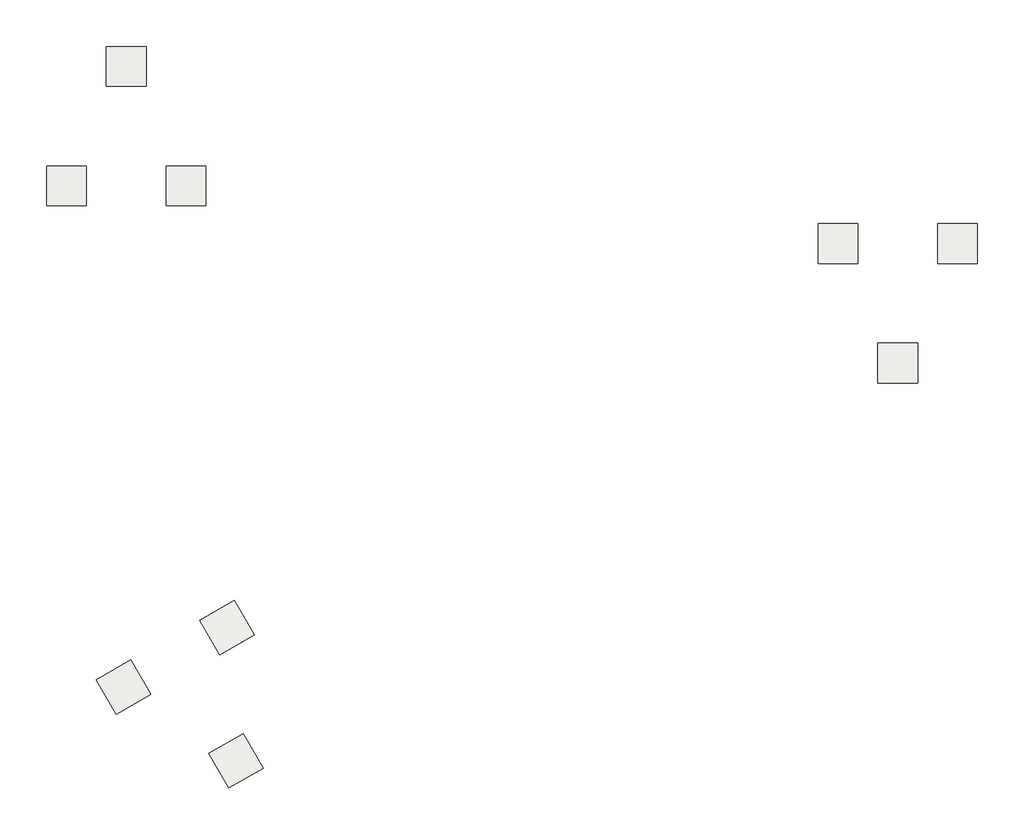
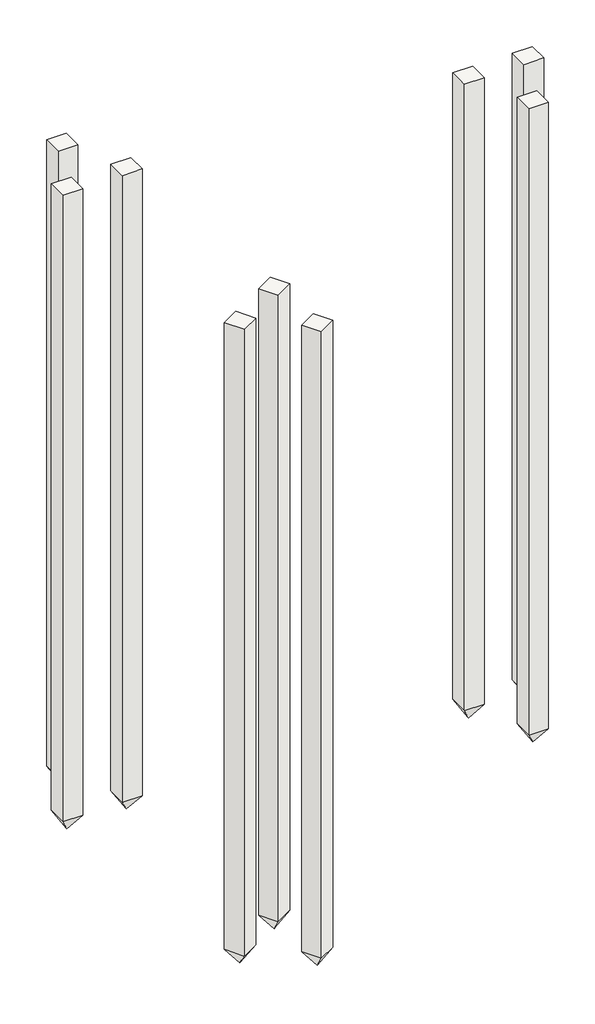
# One storey: 9 slabs.
"""IFC4 building model written with IfcOpenShell, lengths in millimetres."""

from ifc_helpers import new_model, si_unit, origin, place, context, project, spatial, faceted_brep, element, save

model = new_model("IFC4")

# Units and contexts
model_context = context("Model", 3, world=origin())
ifc_project = project(units=[si_unit("LENGTHUNIT", "METRE", prefix="MILLI")], contexts=[model_context])

# Site, building, storey
site = spatial("IfcSite", under=ifc_project)
building = spatial("IfcBuilding", under=site)
storey = spatial("IfcBuildingStorey", under=building, Name="+0.150 (Верх свай 3)", Elevation=150.0)

# Slabs
placement = place(None, origin())
element("IfcSlab", 1, ObjectType="Бетонная свая прямоугольного сечения : C100.30-9", at=placement, inside=storey, context=model_context, shape_type="Brep", body=[
    faceted_brep([(9836.4938099, 32265.0328931, 150.0), (9576.6861888, 32115.0328931, 150.0), (9726.6861888, 31855.225272, 150.0), (9986.4938099, 32005.225272, 150.0), (9836.4938099, 32265.0328931, 100.0), (9836.4938099, 32265.0328931, 0.0), (9836.4938099, 32265.0328931, -9850.0), (9576.6861888, 32115.0328931, -9850.0), (9576.6861888, 32115.0328931, 0.0), (9576.6861888, 32115.0328931, 100.0), (9726.6861888, 31855.225272, -9850.0), (9726.6861888, 31855.225272, 0.0), (9726.6861888, 31855.225272, 100.0), (9986.4938099, 32005.225272, -9850.0), (9986.4938099, 32005.225272, 0.0), (9986.4938099, 32005.225272, 100.0), (9781.7658255, 32060.6696651, -10100.0), (9782.1658255, 32059.9768447, -10100.0), (9781.4730052, 32059.5768447, -10100.0), (9781.0730052, 32060.2696651, -10100.0)], [[[0, 1, 2, 3]], [[1, 0, 4, 5, 6, 7, 8, 9]], [[2, 1, 9, 8, 7, 10, 11, 12]], [[3, 2, 12, 11, 10, 13, 14, 15]], [[0, 3, 15, 14, 13, 6, 5, 4]], [[16, 17, 18, 19]], [[17, 16, 6, 13]], [[18, 17, 13, 10]], [[19, 18, 10, 7]], [[16, 19, 7, 6]]]),
])
element("IfcSlab", 2, ObjectType="Бетонная свая прямоугольного сечения : C100.30-9", at=placement, inside=storey, context=model_context, shape_type="Brep", body=[
    faceted_brep([(10615.8786497, 32715.0987455, 150.0), (10356.0710286, 32565.0987455, 150.0), (10506.0710286, 32305.2911243, 150.0), (10765.8786497, 32455.2911243, 150.0), (10615.8786497, 32715.0987455, 100.0), (10615.8786497, 32715.0987455, 0.0), (10615.8786497, 32715.0987455, -9850.0), (10356.0710286, 32565.0987455, -9850.0), (10356.0710286, 32565.0987455, 0.0), (10356.0710286, 32565.0987455, 100.0), (10506.0710286, 32305.2911243, -9850.0), (10506.0710286, 32305.2911243, 0.0), (10506.0710286, 32305.2911243, 100.0), (10765.8786497, 32455.2911243, -9850.0), (10765.8786497, 32455.2911243, 0.0), (10765.8786497, 32455.2911243, 100.0), (10561.1506653, 32510.7355174, -10100.0), (10561.5506653, 32510.0426971, -10100.0), (10560.857845, 32509.6426971, -10100.0), (10560.457845, 32510.3355174, -10100.0)], [[[0, 1, 2, 3]], [[1, 0, 4, 5, 6, 7, 8, 9]], [[2, 1, 9, 8, 7, 10, 11, 12]], [[3, 2, 12, 11, 10, 13, 14, 15]], [[0, 3, 15, 14, 13, 6, 5, 4]], [[16, 17, 18, 19]], [[17, 16, 6, 13]], [[18, 17, 13, 10]], [[19, 18, 10, 7]], [[16, 19, 7, 6]]]),
])
element("IfcSlab", 3, ObjectType="Бетонная свая прямоугольного сечения : C100.30-9", at=placement, inside=storey, context=model_context, shape_type="Brep", body=[
    faceted_brep([(10683.9271701, 31710.5752059, 150.0), (10424.119549, 31560.5752059, 150.0), (10574.119549, 31300.7675847, 150.0), (10833.9271701, 31450.7675847, 150.0), (10683.9271701, 31710.5752059, 100.0), (10683.9271701, 31710.5752059, 0.0), (10683.9271701, 31710.5752059, -9850.0), (10424.119549, 31560.5752059, -9850.0), (10424.119549, 31560.5752059, 0.0), (10424.119549, 31560.5752059, 100.0), (10574.119549, 31300.7675847, -9850.0), (10574.119549, 31300.7675847, 0.0), (10574.119549, 31300.7675847, 100.0), (10833.9271701, 31450.7675847, -9850.0), (10833.9271701, 31450.7675847, 0.0), (10833.9271701, 31450.7675847, 100.0), (10629.1991857, 31506.2119778, -10100.0), (10629.5991857, 31505.5191575, -10100.0), (10628.9063654, 31505.1191575, -10100.0), (10628.5063654, 31505.8119778, -10100.0)], [[[0, 1, 2, 3]], [[1, 0, 4, 5, 6, 7, 8, 9]], [[2, 1, 9, 8, 7, 10, 11, 12]], [[3, 2, 12, 11, 10, 13, 14, 15]], [[0, 3, 15, 14, 13, 6, 5, 4]], [[16, 17, 18, 19]], [[17, 16, 6, 13]], [[18, 17, 13, 10]], [[19, 18, 10, 7]], [[16, 19, 7, 6]]]),
])
element("IfcSlab", 4, ObjectType="Бетонная свая прямоугольного сечения : C100.30-9", at=placement, inside=storey, context=model_context, shape_type="Brep", body=[
    faceted_brep([(15313.2047212, 35554.4353712, 150.0), (15013.2047212, 35554.4353712, 150.0), (15013.2047212, 35254.4353712, 150.0), (15313.2047212, 35254.4353712, 150.0), (15313.2047212, 35554.4353712, 100.0), (15313.2047212, 35554.4353712, 0.0), (15313.2047212, 35554.4353712, -9850.0), (15013.2047212, 35554.4353712, -9850.0), (15013.2047212, 35554.4353712, 0.0), (15013.2047212, 35554.4353712, 100.0), (15013.2047212, 35254.4353712, -9850.0), (15013.2047212, 35254.4353712, 0.0), (15013.2047212, 35254.4353712, 100.0), (15313.2047212, 35254.4353712, -9850.0), (15313.2047212, 35254.4353712, 0.0), (15313.2047212, 35254.4353712, 100.0), (15163.6272824, 35404.8156163, -10100.0), (15163.6272824, 35404.0156163, -10100.0), (15162.8272824, 35404.0156163, -10100.0), (15162.8272824, 35404.8156163, -10100.0)], [[[0, 1, 2, 3]], [[1, 0, 4, 5, 6, 7, 8, 9]], [[2, 1, 9, 8, 7, 10, 11, 12]], [[3, 2, 12, 11, 10, 13, 14, 15]], [[0, 3, 15, 14, 13, 6, 5, 4]], [[16, 17, 18, 19]], [[17, 16, 6, 13]], [[18, 17, 13, 10]], [[19, 18, 10, 7]], [[16, 19, 7, 6]]]),
])
element("IfcSlab", 5, ObjectType="Бетонная свая прямоугольного сечения : C100.30-9", at=placement, inside=storey, context=model_context, shape_type="Brep", body=[
    faceted_brep([(15763.2047198, 34654.4353712, 150.0), (15463.2047198, 34654.4353712, 150.0), (15463.2047198, 34354.4353712, 150.0), (15763.2047198, 34354.4353712, 150.0), (15763.2047198, 34654.4353712, 100.0), (15763.2047198, 34654.4353712, 0.0), (15763.2047198, 34654.4353712, -9850.0), (15463.2047198, 34654.4353712, -9850.0), (15463.2047198, 34654.4353712, 0.0), (15463.2047198, 34654.4353712, 100.0), (15463.2047198, 34354.4353712, -9850.0), (15463.2047198, 34354.4353712, 0.0), (15463.2047198, 34354.4353712, 100.0), (15763.2047198, 34354.4353712, -9850.0), (15763.2047198, 34354.4353712, 0.0), (15763.2047198, 34354.4353712, 100.0), (15613.627281, 34504.8156163, -10100.0), (15613.627281, 34504.0156163, -10100.0), (15612.827281, 34504.0156163, -10100.0), (15612.827281, 34504.8156163, -10100.0)], [[[0, 1, 2, 3]], [[1, 0, 4, 5, 6, 7, 8, 9]], [[2, 1, 9, 8, 7, 10, 11, 12]], [[3, 2, 12, 11, 10, 13, 14, 15]], [[0, 3, 15, 14, 13, 6, 5, 4]], [[16, 17, 18, 19]], [[17, 16, 6, 13]], [[18, 17, 13, 10]], [[19, 18, 10, 7]], [[16, 19, 7, 6]]]),
])
element("IfcSlab", 6, ObjectType="Бетонная свая прямоугольного сечения : C100.30-9", at=placement, inside=storey, context=model_context, shape_type="Brep", body=[
    faceted_brep([(16213.2047218, 35554.4353705, 150.0), (15913.2047218, 35554.4353705, 150.0), (15913.2047218, 35254.4353705, 150.0), (16213.2047218, 35254.4353705, 150.0), (16213.2047218, 35554.4353705, 100.0), (16213.2047218, 35554.4353705, 0.0), (16213.2047218, 35554.4353705, -9850.0), (15913.2047218, 35554.4353705, -9850.0), (15913.2047218, 35554.4353705, 0.0), (15913.2047218, 35554.4353705, 100.0), (15913.2047218, 35254.4353705, -9850.0), (15913.2047218, 35254.4353705, 0.0), (15913.2047218, 35254.4353705, 100.0), (16213.2047218, 35254.4353705, -9850.0), (16213.2047218, 35254.4353705, 0.0), (16213.2047218, 35254.4353705, 100.0), (16063.6272831, 35404.8156156, -10100.0), (16063.6272831, 35404.0156156, -10100.0), (16062.8272831, 35404.0156156, -10100.0), (16062.8272831, 35404.8156156, -10100.0)], [[[0, 1, 2, 3]], [[1, 0, 4, 5, 6, 7, 8, 9]], [[2, 1, 9, 8, 7, 10, 11, 12]], [[3, 2, 12, 11, 10, 13, 14, 15]], [[0, 3, 15, 14, 13, 6, 5, 4]], [[16, 17, 18, 19]], [[17, 16, 6, 13]], [[18, 17, 13, 10]], [[19, 18, 10, 7]], [[16, 19, 7, 6]]]),
])
element("IfcSlab", 7, ObjectType="Бетонная свая прямоугольного сечения : C100.30-9", at=placement, inside=storey, context=model_context, shape_type="Brep", body=[
    faceted_brep([(9501.5082795, 35989.1738817, 150.0), (9201.5082795, 35989.1738817, 150.0), (9201.5082795, 35689.1738817, 150.0), (9501.5082795, 35689.1738817, 150.0), (9501.5082795, 35989.1738817, 100.0), (9501.5082795, 35989.1738817, 0.0), (9501.5082795, 35989.1738817, -9850.0), (9201.5082795, 35989.1738817, -9850.0), (9201.5082795, 35989.1738817, 0.0), (9201.5082795, 35989.1738817, 100.0), (9201.5082795, 35689.1738817, -9850.0), (9201.5082795, 35689.1738817, 0.0), (9201.5082795, 35689.1738817, 100.0), (9501.5082795, 35689.1738817, -9850.0), (9501.5082795, 35689.1738817, 0.0), (9501.5082795, 35689.1738817, 100.0), (9351.9308407, 35839.5541268, -10100.0), (9351.9308407, 35838.7541268, -10100.0), (9351.1308407, 35838.7541268, -10100.0), (9351.1308407, 35839.5541268, -10100.0)], [[[0, 1, 2, 3]], [[1, 0, 4, 5, 6, 7, 8, 9]], [[2, 1, 9, 8, 7, 10, 11, 12]], [[3, 2, 12, 11, 10, 13, 14, 15]], [[0, 3, 15, 14, 13, 6, 5, 4]], [[16, 17, 18, 19]], [[17, 16, 6, 13]], [[18, 17, 13, 10]], [[19, 18, 10, 7]], [[16, 19, 7, 6]]]),
])
element("IfcSlab", 8, ObjectType="Бетонная свая прямоугольного сечения : C100.30-9", at=placement, inside=storey, context=model_context, shape_type="Brep", body=[
    faceted_brep([(9951.5082795, 36889.1738817, 150.0), (9651.5082795, 36889.1738817, 150.0), (9651.5082795, 36589.1738817, 150.0), (9951.5082795, 36589.1738817, 150.0), (9951.5082795, 36889.1738817, 100.0), (9951.5082795, 36889.1738817, 0.0), (9951.5082795, 36889.1738817, -9850.0), (9651.5082795, 36889.1738817, -9850.0), (9651.5082795, 36889.1738817, 0.0), (9651.5082795, 36889.1738817, 100.0), (9651.5082795, 36589.1738817, -9850.0), (9651.5082795, 36589.1738817, 0.0), (9651.5082795, 36589.1738817, 100.0), (9951.5082795, 36589.1738817, -9850.0), (9951.5082795, 36589.1738817, 0.0), (9951.5082795, 36589.1738817, 100.0), (9801.9308407, 36739.5541268, -10100.0), (9801.9308407, 36738.7541268, -10100.0), (9801.1308407, 36738.7541268, -10100.0), (9801.1308407, 36739.5541268, -10100.0)], [[[0, 1, 2, 3]], [[1, 0, 4, 5, 6, 7, 8, 9]], [[2, 1, 9, 8, 7, 10, 11, 12]], [[3, 2, 12, 11, 10, 13, 14, 15]], [[0, 3, 15, 14, 13, 6, 5, 4]], [[16, 17, 18, 19]], [[17, 16, 6, 13]], [[18, 17, 13, 10]], [[19, 18, 10, 7]], [[16, 19, 7, 6]]]),
])
element("IfcSlab", 9, ObjectType="Бетонная свая прямоугольного сечения : C100.30-9", at=placement, inside=storey, context=model_context, shape_type="Brep", body=[
    faceted_brep([(10401.5082802, 35989.173881, 150.0), (10101.5082802, 35989.173881, 150.0), (10101.5082802, 35689.173881, 150.0), (10401.5082802, 35689.173881, 150.0), (10401.5082802, 35989.173881, 100.0), (10401.5082802, 35989.173881, 0.0), (10401.5082802, 35989.173881, -9850.0), (10101.5082802, 35989.173881, -9850.0), (10101.5082802, 35989.173881, 0.0), (10101.5082802, 35989.173881, 100.0), (10101.5082802, 35689.173881, -9850.0), (10101.5082802, 35689.173881, 0.0), (10101.5082802, 35689.173881, 100.0), (10401.5082802, 35689.173881, -9850.0), (10401.5082802, 35689.173881, 0.0), (10401.5082802, 35689.173881, 100.0), (10251.9308414, 35839.5541261, -10100.0), (10251.9308414, 35838.7541261, -10100.0), (10251.1308414, 35838.7541261, -10100.0), (10251.1308414, 35839.5541261, -10100.0)], [[[0, 1, 2, 3]], [[1, 0, 4, 5, 6, 7, 8, 9]], [[2, 1, 9, 8, 7, 10, 11, 12]], [[3, 2, 12, 11, 10, 13, 14, 15]], [[0, 3, 15, 14, 13, 6, 5, 4]], [[16, 17, 18, 19]], [[17, 16, 6, 13]], [[18, 17, 13, 10]], [[19, 18, 10, 7]], [[16, 19, 7, 6]]]),
])

save(model, "model.ifc")
